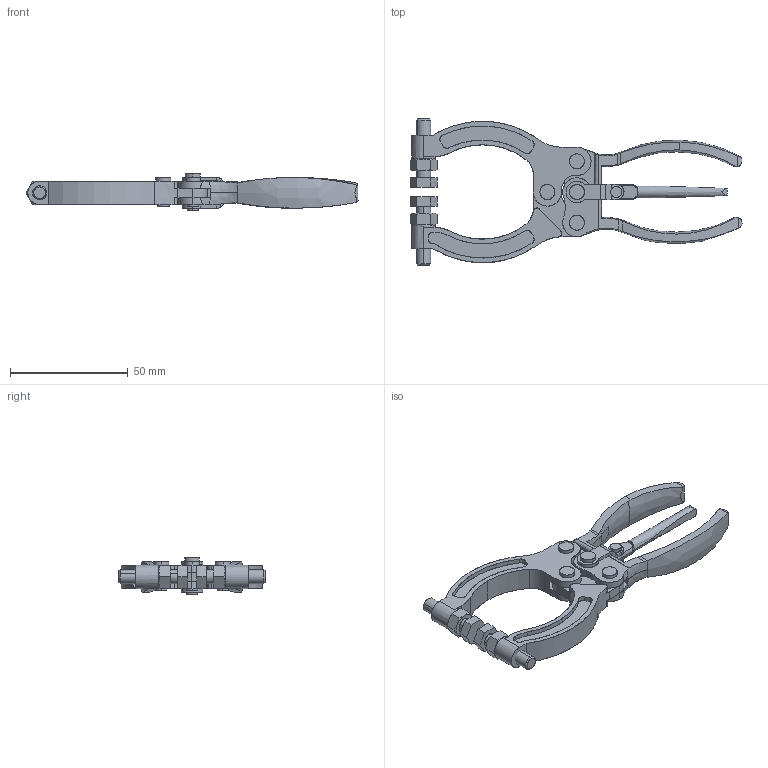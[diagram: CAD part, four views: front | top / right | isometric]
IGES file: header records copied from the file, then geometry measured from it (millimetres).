
Start section: SolidWorks IGES file using analytic representation for surfaces
Global section: file name: C:\Projetos\Grampos\Alicates\KFA-25\KFA-25.igs; native system: SolidWorks 2011; preprocessor: SolidWorks 2011; author: Usuario; date: 110512.122036; units: millimetre
Bounding box: 140.77 x 62 x 15.5 mm (x, y, z)
Surface area: 21004.9 mm2 (no closed solid volume)
Topology: 0 solids, 0 shells, 423 faces, 6217 edges, 6209 vertices
Faces by surface type: revolution 255, bspline 168
